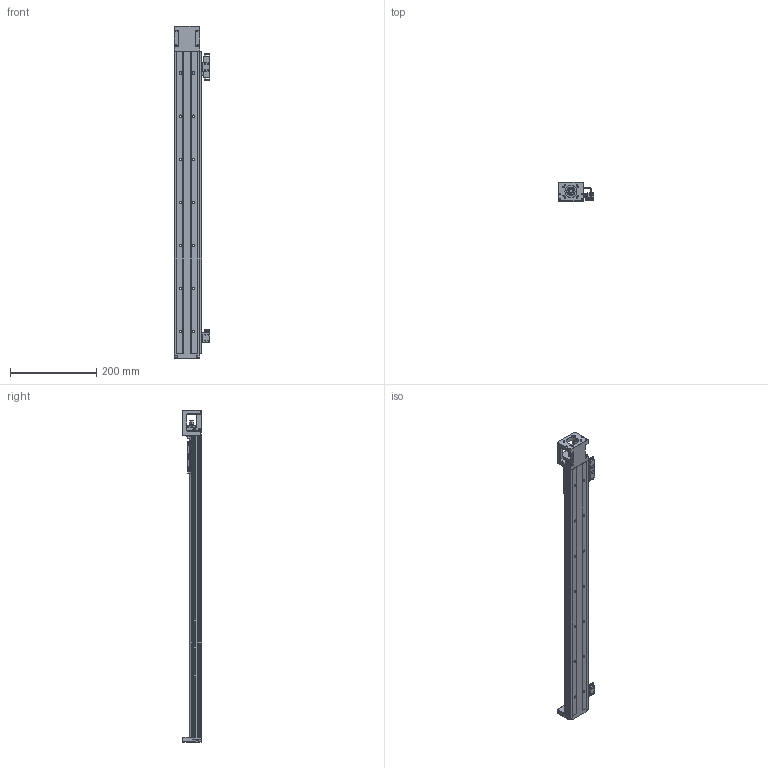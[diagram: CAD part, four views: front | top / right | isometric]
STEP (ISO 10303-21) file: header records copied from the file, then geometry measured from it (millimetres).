
FILE_DESCRIPTION (( 'STEP AP214' ), '1' );
FILE_NAME ('SFKK60-700A1-F0.STEP', '2023-02-17T01:39:20', ( '微软用户' ), ( '微软中国' ), 'SwSTEP 2.0', 'SolidWorks 2018', '' );
FILE_SCHEMA (( 'AUTOMOTIVE_DESIGN' ));
Length unit declared in the file: millimetre
Products named in the file (9): 开关固定座：KK-674S2-F; 蚐郲; 不带盖挡光片：KK-60-S2-D2; 极限轨道与开关固定座组合_700; SX674嫖萇羲壽; SFKK60-LR 憤癹寢耋_700; SFKK60-700A1-F0; SFKK60-A1; SFKK60-F0_700
Assembly tree (11 placements, depth 3):
  SFKK60-700A1-F0
    SFKK60-F0_700
    SFKK60-A1
    蚐郲
    极限轨道与开关固定座组合_700
      SFKK60-LR 憤癹寢耋_700
      开关固定座：KK-674S2-F  x2
    SX674嫖萇羲壽  x3
    不带盖挡光片：KK-60-S2-D2
Bounding box: 83.4 x 44.5 x 770 mm (x, y, z)
Volume: 703999.1 mm3; surface area: 256794.5 mm2
Topology: 27 solids, 27 shells, 1600 faces, 4201 edges, 2667 vertices
Faces by surface type: plane 781, cylinder 620, cone 128, torus 57, sphere 10, bspline 4
Entity records: 59854 total; most frequent: CARTESIAN_POINT 11192, DIRECTION 7964, ORIENTED_EDGE 7666, EDGE_CURVE 3833, AXIS2_PLACEMENT_3D 2817, VERTEX_POINT 2469, VECTOR 2330, LINE 2330
